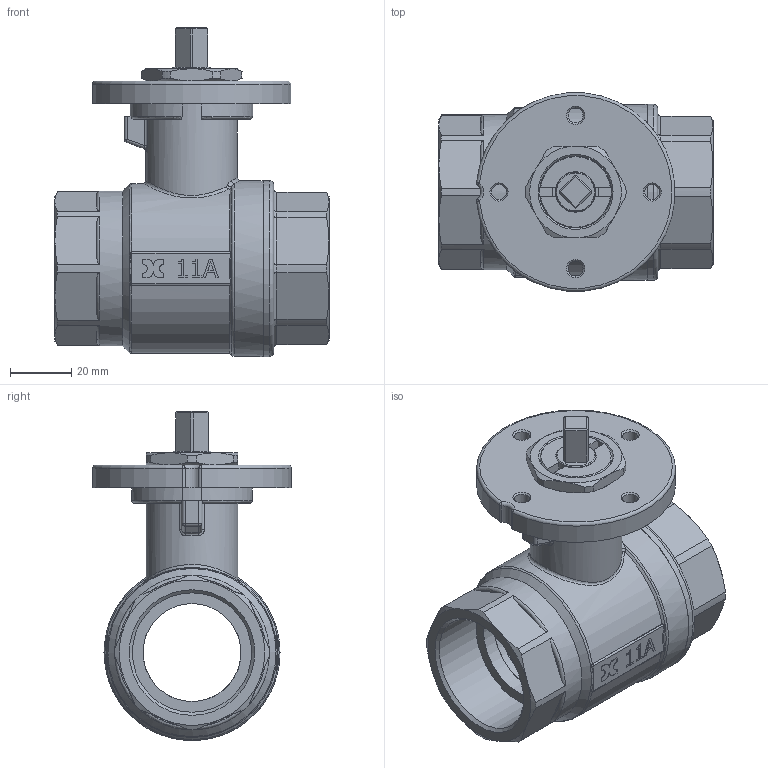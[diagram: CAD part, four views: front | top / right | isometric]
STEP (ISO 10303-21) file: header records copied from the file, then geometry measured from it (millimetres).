
FILE_DESCRIPTION((''),'2;1');
FILE_NAME('C:\Documents and Settings\ut4\Desktop\TICOM ULTIMATE\Art.105 PM SM 114.stp','2012-07-16T14:37:35',('ut4'),(''),'Autodesk Inventor 2013','Autodesk Inventor 2013','');
FILE_SCHEMA(('AUTOMOTIVE_DESIGN { 1 0 10303 214 1 1 1 1 }'));
Length unit declared in the file: millimetre
Products named in the file (13): Valvola a sfera mot. 114 art.105 PM SM; Corpo femmina 114 mot; sfera 114; O-ring 37.77 x 2; Ghiera ferma asta mot. 25; Anello antigrip. perno mot. Ø20; Boccola antigrip. perno mot. Ø20; Perno mot. 20 q8; O-ring 15.08 x 2; Sede 114; Manicotto femmina 114 mot; Dischetto portamotore SM Ø25 lav; Dado blocca piastra SM3
Assembly tree (15 placements, depth 2):
  Valvola a sfera mot. 114 art.105 PM SM
    Corpo femmina 114 mot
    sfera 114
    O-ring 37.77 x 2  x2
    Ghiera ferma asta mot. 25
    Anello antigrip. perno mot. Ø20
    Boccola antigrip. perno mot. Ø20
    Perno mot. 20 q8
    O-ring 15.08 x 2  x2
    Sede 114  x2
    Manicotto femmina 114 mot
    Dischetto portamotore SM Ø25 lav
    Dado blocca piastra SM3
Bounding box: 89.6 x 64.78 x 107.5 mm (x, y, z)
Volume: 147334.2 mm3; surface area: 78981.8 mm2
Topology: 15 solids, 15 shells, 620 faces, 1524 edges, 944 vertices
Faces by surface type: plane 269, cylinder 161, torus 68, cone 58, bspline 41, sphere 23
Full cylindrical faces by diameter (mm): 4.917 x4, 13 x1, 13.2 x2, 14.8 x1, 15.1 x1, 16 x1, 16.1 x2, 16.3 x2, 19.9 x3, 20 x2, 20.1 x1, 23 x1, 23.5 x2, 25 x2, 30 x1, 32 x5, 37.6 x2, 39 x2, 43 x4, 50.5 x2, 52 x1, 52.4 x1, 57.5 x2
Entity records: 19386 total; most frequent: CARTESIAN_POINT 4890, DIRECTION 2820, ORIENTED_EDGE 2778, EDGE_CURVE 1389, AXIS2_PLACEMENT_3D 1072, VERTEX_POINT 913, EDGE_LOOP 750, VECTOR 676
